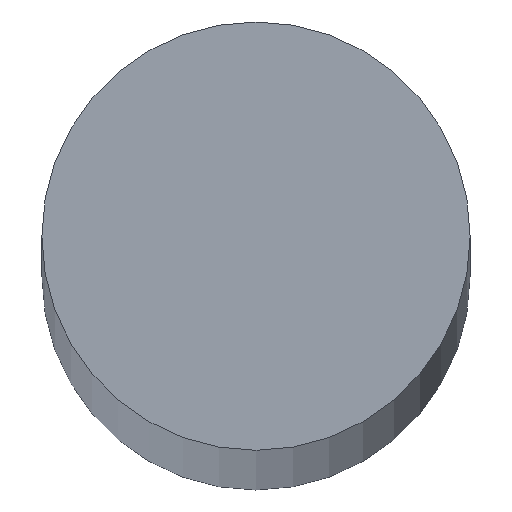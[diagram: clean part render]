
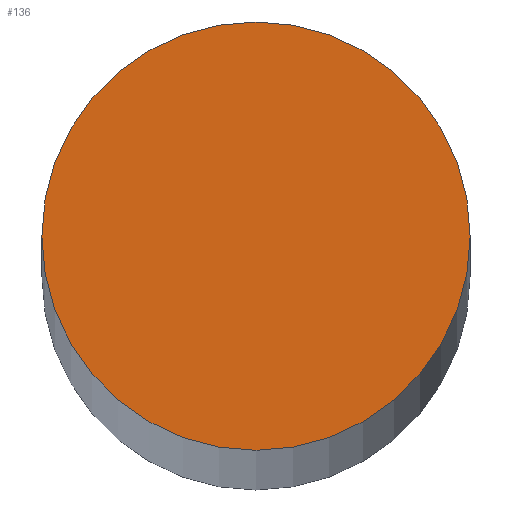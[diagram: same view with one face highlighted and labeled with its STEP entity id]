
A CAD part, top view. The second image highlights one B-rep face of the part: STEP entity #136.
In plain terms, the highlighted planar face has unit normal (0, 0, 1).
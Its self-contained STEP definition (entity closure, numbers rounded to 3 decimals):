
#10 = AXIS2_PLACEMENT_3D ( 'NONE', #88, #90, #91 ) ;
#15 = AXIS2_PLACEMENT_3D ( 'NONE', #85, #86, #87 ) ;
#17 = EDGE_CURVE ( 'NONE', #75, #74, #57, .T. ) ;
#21 = AXIS2_PLACEMENT_3D ( 'NONE', #92, #108, #109 ) ;
#27 = EDGE_CURVE ( 'NONE', #74, #75, #59, .T. ) ;
#37 = ORIENTED_EDGE ( 'NONE', *, *, #27, .T. ) ;
#38 = ORIENTED_EDGE ( 'NONE', *, *, #17, .T. ) ;
#52 = EDGE_LOOP ( 'NONE', ( #38, #37 ) ) ;
#53 = FACE_OUTER_BOUND ( 'NONE', #52, .T. ) ;
#57 = CIRCLE ( 'NONE', #15, 6. ) ;
#59 = CIRCLE ( 'NONE', #10, 6. ) ;
#74 = VERTEX_POINT ( 'NONE', #96 ) ;
#75 = VERTEX_POINT ( 'NONE', #104 ) ;
#85 = CARTESIAN_POINT ( 'NONE',  ( 0., 0., 318.5 ) ) ;
#86 = DIRECTION ( 'NONE',  ( 0., 0., 1. ) ) ;
#87 = DIRECTION ( 'NONE',  ( 1., 0., 0. ) ) ;
#88 = CARTESIAN_POINT ( 'NONE',  ( 0., 0., 318.5 ) ) ;
#90 = DIRECTION ( 'NONE',  ( 0., 0., 1. ) ) ;
#91 = DIRECTION ( 'NONE',  ( 1., 0., 0. ) ) ;
#92 = CARTESIAN_POINT ( 'NONE',  ( 0., 0., 318.5 ) ) ;
#96 = CARTESIAN_POINT ( 'NONE',  ( 6., 0., 318.5 ) ) ;
#103 = PLANE ( 'NONE',  #21 ) ;
#104 = CARTESIAN_POINT ( 'NONE',  ( -6., 0., 318.5 ) ) ;
#108 = DIRECTION ( 'NONE',  ( 0., 0., 1. ) ) ;
#109 = DIRECTION ( 'NONE',  ( 1., 0., 0. ) ) ;
#136 = ADVANCED_FACE ( 'NONE', ( #53 ), #103, .T. ) ;
